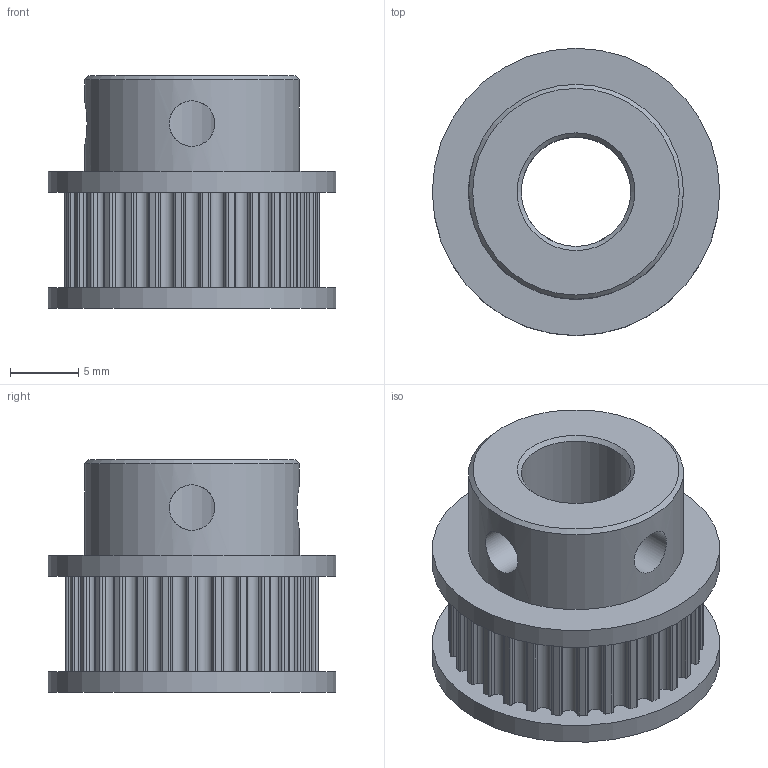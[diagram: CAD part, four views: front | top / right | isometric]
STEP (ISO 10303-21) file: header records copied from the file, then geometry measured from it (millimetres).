
FILE_DESCRIPTION(/* description */ ('','CAx-IF Rec.Pracs.---Representation and Presentation of Product Manufacturing Information (PMI)---4.0---2014-10-13'),/* implementation_level */ '2;1');
FILE_NAME(/* name */ 'GT2_30T_8mm-Bore_6mm-Belt v2.step',/* time_stamp */ '2025-01-11T10:35:53-08:00',/* author */ (''),/* organization */ (''),/* preprocessor_version */ 'ST-DEVELOPER v20',/* originating_system */ 'Autodesk Translation Framework v13.20.0.188',/* authorisation */ '');
FILE_SCHEMA (('AP242_MANAGED_MODEL_BASED_3D_ENGINEERING_MIM_LF { 1 0 10303 442 1 1 4 }'));
Length unit declared in the file: millimetre
Products named in the file (2): GT2_30T_8mm-Bore_6mm-Belt; GT2 Timing Pulley v2 v1
Assembly tree (1 placements, depth 2):
  GT2_30T_8mm-Bore_6mm-Belt
    GT2 Timing Pulley v2 v1
Bounding box: 21 x 21 x 17 mm (x, y, z)
Volume: 3215.4 mm3; surface area: 2371.3 mm2
Topology: 1 solids, 1 shells, 198 faces, 571 edges, 379 vertices
Faces by surface type: cylinder 187, plane 6, cone 4, bspline 1
Full cylindrical faces by diameter (mm): 3.332 x2, 8 x2, 15.7 x1, 21 x2
Entity records: 6998 total; most frequent: CARTESIAN_POINT 1361, DIRECTION 1340, ORIENTED_EDGE 1142, AXIS2_PLACEMENT_3D 574, EDGE_CURVE 571, VERTEX_POINT 379, CIRCLE 374, EDGE_LOOP 208
